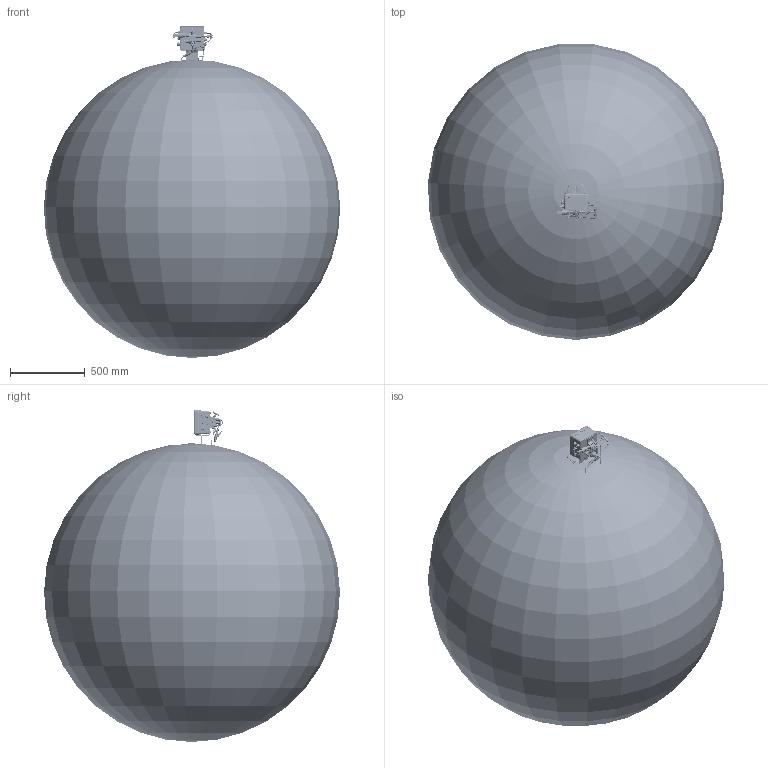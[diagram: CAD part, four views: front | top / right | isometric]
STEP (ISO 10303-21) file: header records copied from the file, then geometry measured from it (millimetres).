
FILE_DESCRIPTION(('STEP AP242'), '1');
FILE_NAME('ÑÃ-ÝÊÐ-Ð-100 ÐÂÃ-Á ïðàâûé ñ ÏÏÄ', '', ('UNSPECIFIED'), ('UNSPECIFIED'), 'C3D Converter', 'C3D Toolkit', '');
FILE_SCHEMA(('AP242_MANAGED_MODEL_BASED_3D_ENGINEERING_MIM_LF { 1 0 10303 442 1 1 4 }'));
Length unit declared in the file: millimetre
Bounding box: 1985.41 x 1982.05 x 2224.17 mm (x, y, z)
Volume: 4138159700.5 mm3; surface area: 13582318.6 mm2
Topology: 132 solids, 133 shells, 6171 faces, 15510 edges, 9913 vertices
Faces by surface type: plane 2015, cylinder 1605, extrusion 1105, cone 779, bspline 417, torus 210, sphere 40
Full cylindrical faces by diameter (mm): 1.95 x3, 2 x41, 2.459 x4, 2.5 x12, 2.791 x2, 3 x5, 3.2 x12, 3.242 x9, 3.3 x4, 3.45 x3, 3.459 x2, 3.9 x4, 4 x36, 4.134 x9, 4.3 x2, 4.5 x1, 4.917 x15, 5 x26, 5.5 x6, 6 x57, 6.2 x4, 6.3 x6, 6.6 x4, 7 x13, 8 x10, 8.1 x1, 8.5 x1, 8.77 x2, 8.917 x10, 9 x2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
Entity records: 366525 total; most frequent: CARTESIAN_POINT 181839, ORIENTED_EDGE 28528, DIRECTION 23163, EDGE_CURVE 14265, VERTEX_POINT 9854, AXIS2_PLACEMENT_3D 8216, EDGE_LOOP 7987, VECTOR 6731
